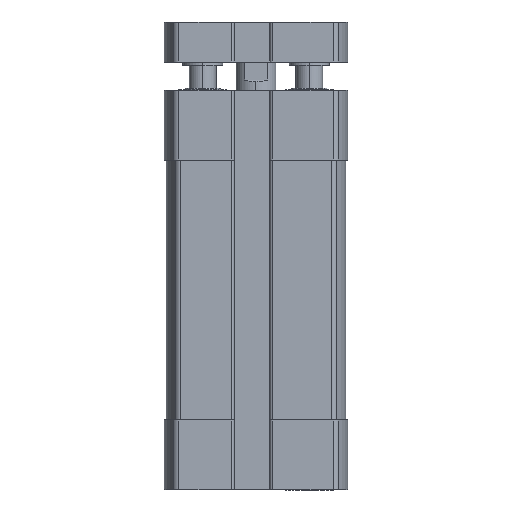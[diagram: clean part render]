
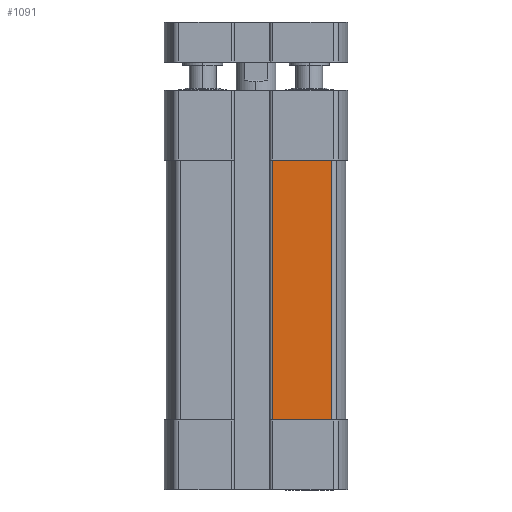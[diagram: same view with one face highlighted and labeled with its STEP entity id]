
A CAD part, front view. The second image highlights one B-rep face of the part: STEP entity #1091.
In plain terms, the highlighted planar face has unit normal (0, -1, 0) as drawn and (-1, 0, 0) by its records, which use the part's own axes.
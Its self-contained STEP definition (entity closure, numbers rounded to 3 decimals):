
#85 = VERTEX_POINT ( 'NONE', #13181 ) ;
#120 = CARTESIAN_POINT ( 'NONE',  ( -13.5, -2.5, -49.5 ) ) ;
#254 = DIRECTION ( 'NONE',  ( 0., 0., 1. ) ) ;
#924 = VECTOR ( 'NONE', #5660, 1000. ) ;
#978 = ORIENTED_EDGE ( 'NONE', *, *, #14290, .T. ) ;
#1091 = ADVANCED_FACE ( 'NONE', ( #11508 ), #10940, .T. ) ;
#1473 = CARTESIAN_POINT ( 'NONE',  ( -13.5, -11.329, -49.5 ) ) ;
#1654 = ORIENTED_EDGE ( 'NONE', *, *, #8387, .T. ) ;
#1945 = CARTESIAN_POINT ( 'NONE',  ( -13.5, -2.5, -49.5 ) ) ;
#2905 = EDGE_CURVE ( 'NONE', #16204, #13435, #16609, .T. ) ;
#3026 = CARTESIAN_POINT ( 'NONE',  ( -13.5, -2.5, -49.5 ) ) ;
#3076 = AXIS2_PLACEMENT_3D ( 'NONE', #15836, #16195, #254 ) ;
#3619 = EDGE_CURVE ( 'NONE', #6184, #16204, #11008, .T. ) ;
#3624 = CARTESIAN_POINT ( 'NONE',  ( -13.5, 0., -10.5 ) ) ;
#5423 = VECTOR ( 'NONE', #11808, 1000. ) ;
#5468 = DIRECTION ( 'NONE',  ( 0., -1., 0. ) ) ;
#5660 = DIRECTION ( 'NONE',  ( 0., 0., -1. ) ) ;
#6184 = VERTEX_POINT ( 'NONE', #14487 ) ;
#7086 = VECTOR ( 'NONE', #12872, 1000. ) ;
#8387 = EDGE_CURVE ( 'NONE', #13435, #85, #15983, .T. ) ;
#9571 = VECTOR ( 'NONE', #5468, 1000. ) ;
#10082 = ORIENTED_EDGE ( 'NONE', *, *, #3619, .T. ) ;
#10500 = CARTESIAN_POINT ( 'NONE',  ( -13.5, -11.329, -49.5 ) ) ;
#10940 = PLANE ( 'NONE',  #3076 ) ;
#11008 = LINE ( 'NONE', #3026, #924 ) ;
#11508 = FACE_OUTER_BOUND ( 'NONE', #16292, .T. ) ;
#11808 = DIRECTION ( 'NONE',  ( 0., 0., 1. ) ) ;
#12872 = DIRECTION ( 'NONE',  ( 0., 1., 0. ) ) ;
#13181 = CARTESIAN_POINT ( 'NONE',  ( -13.5, -11.329, -10.5 ) ) ;
#13308 = LINE ( 'NONE', #3624, #7086 ) ;
#13435 = VERTEX_POINT ( 'NONE', #1473 ) ;
#13995 = ORIENTED_EDGE ( 'NONE', *, *, #2905, .T. ) ;
#14290 = EDGE_CURVE ( 'NONE', #85, #6184, #13308, .T. ) ;
#14487 = CARTESIAN_POINT ( 'NONE',  ( -13.5, -2.5, -10.5 ) ) ;
#15836 = CARTESIAN_POINT ( 'NONE',  ( -13.5, -2.5, -49.5 ) ) ;
#15983 = LINE ( 'NONE', #10500, #5423 ) ;
#16195 = DIRECTION ( 'NONE',  ( -1., 0., 0. ) ) ;
#16204 = VERTEX_POINT ( 'NONE', #120 ) ;
#16292 = EDGE_LOOP ( 'NONE', ( #13995, #1654, #978, #10082 ) ) ;
#16609 = LINE ( 'NONE', #1945, #9571 ) ;
